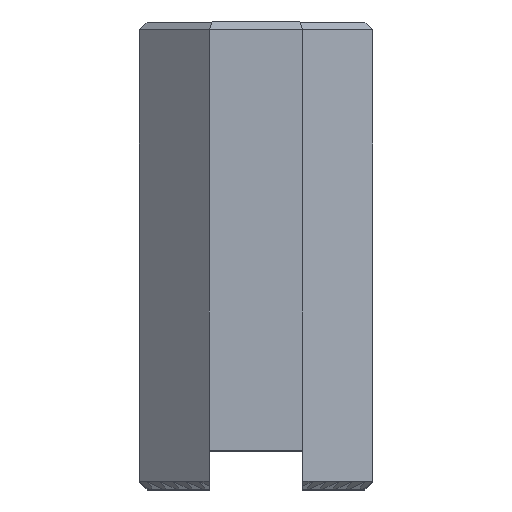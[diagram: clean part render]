
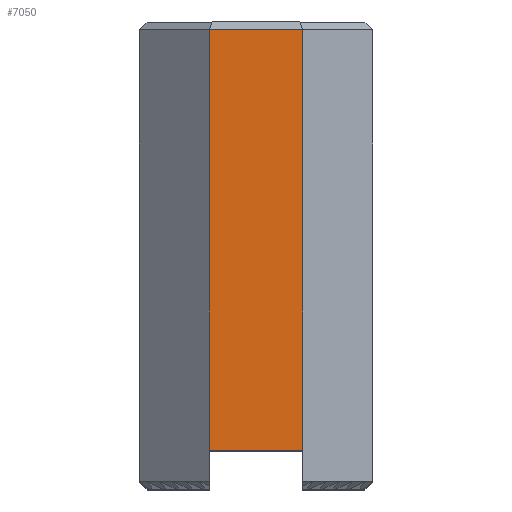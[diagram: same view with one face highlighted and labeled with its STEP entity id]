
A CAD part, top view. The second image highlights one B-rep face of the part: STEP entity #7050.
In plain terms, the highlighted planar face has unit normal (0, 0, 1).
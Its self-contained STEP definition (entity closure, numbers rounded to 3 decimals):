
#42=FACE_OUTER_BOUND('',#462,.T.);
#462=EDGE_LOOP('',(#4873,#4874,#4875,#4876));
#1178=LINE('',#10397,#2198);
#1179=LINE('',#10404,#2199);
#1180=LINE('',#10406,#2200);
#1181=LINE('',#10407,#2201);
#2198=VECTOR('',#8223,10.);
#2199=VECTOR('',#8230,10.);
#2200=VECTOR('',#8231,10.);
#2201=VECTOR('',#8232,10.);
#2923=VERTEX_POINT('',#9805);
#3216=VERTEX_POINT('',#10392);
#3219=VERTEX_POINT('',#10403);
#3220=VERTEX_POINT('',#10405);
#3836=EDGE_CURVE('',#3216,#2923,#1178,.T.);
#3839=EDGE_CURVE('',#2923,#3219,#1179,.T.);
#3840=EDGE_CURVE('',#3220,#3219,#1180,.T.);
#3841=EDGE_CURVE('',#3216,#3220,#1181,.T.);
#4873=ORIENTED_EDGE('',*,*,#3836,.T.);
#4874=ORIENTED_EDGE('',*,*,#3839,.T.);
#4875=ORIENTED_EDGE('',*,*,#3840,.F.);
#4876=ORIENTED_EDGE('',*,*,#3841,.F.);
#6638=PLANE('',#7493);
#7050=ADVANCED_FACE('',(#42),#6638,.T.);
#7493=AXIS2_PLACEMENT_3D('',#10402,#8228,#8229);
#8223=DIRECTION('',(1.,0.,0.));
#8228=DIRECTION('center_axis',(0.,0.,1.));
#8229=DIRECTION('ref_axis',(1.,0.,0.));
#8230=DIRECTION('',(0.,1.,0.));
#8231=DIRECTION('',(1.,0.,0.));
#8232=DIRECTION('',(0.,1.,0.));
#9805=CARTESIAN_POINT('',(6.,5.,36.5));
#10392=CARTESIAN_POINT('',(-6.,5.,36.5));
#10397=CARTESIAN_POINT('',(-6.,5.,36.5));
#10402=CARTESIAN_POINT('Origin',(-6.,0.,36.5));
#10403=CARTESIAN_POINT('',(6.,59.,36.5));
#10404=CARTESIAN_POINT('',(6.,0.,36.5));
#10405=CARTESIAN_POINT('',(-6.,59.,36.5));
#10406=CARTESIAN_POINT('',(-3.,59.,36.5));
#10407=CARTESIAN_POINT('',(-6.,0.,36.5));
